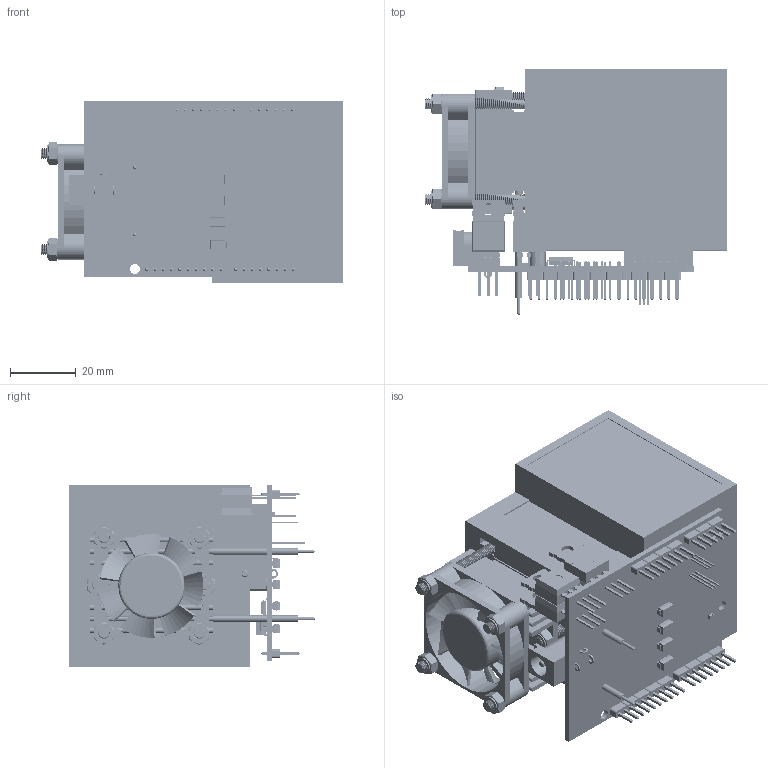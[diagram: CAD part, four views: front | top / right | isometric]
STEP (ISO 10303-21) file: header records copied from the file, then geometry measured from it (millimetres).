
FILE_DESCRIPTION(/* description */ (''),/* implementation_level */ '2;1');
FILE_NAME(/* name */ 'C:/Users/sulir/Desktop/Complet-assemblery v12.step',/* time_stamp */ '2020-06-03T08:01:16+02:00',/* author */ (''),/* organization */ (''),/* preprocessor_version */ 'ST-DEVELOPER v18.1',/* originating_system */ 'Autodesk Translation Framework v9.3.0.1241',/* authorisation */ '');
FILE_SCHEMA (('AUTOMOTIVE_DESIGN { 1 0 10303 214 3 1 1 }'));
Products named in the file (130): Complet-assemblery; Box-NEW; 12V/20W MINI ploché výhrevné teleso; Front-glass; Over-glass; Cooler-V4330K-ForBox; MF35101V1-10000-A99; Zostava-peltier_chladice_ventilaory; Peltier-OK-TRU COMPONENTS TES1-127021; Cooler-V4330K; 90592A104; Stut-small; MF35101V1-10000-A99_1; 1939K17; Stud; 90592A104_1; Left-glass; Closed_part; PCB_ZOSTAVA; DS18B20; CUI_DEVICES_PJ-002A; TMP36GT9Z; PCB; PCB_new; pin; Arduino uno v3; pokus1; arduino+skin; pin_1; Arduino uno v3_1; pokus1_1; arduino+skin_1; pin_2; Arduino uno v3_2; pokus1_2; arduino+skin_2; pin_3; Arduino uno v3_3; pokus1_3; arduino+skin_3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
Assembly tree (207 placements, depth 7):
  Complet-assemblery
    Box-NEW
      12V/20W MINI ploché výhrevné teleso
      Front-glass
      Over-glass
      Cooler-V4330K-ForBox
      MF35101V1-10000-A99
        1939K17
      Zostava-peltier_chladice_ventilaory
        Peltier-OK-TRU COMPONENTS TES1-127021
        Cooler-V4330K  x2
        90592A104  x4
        Stut-small  x2
      MF35101V1-10000-A99_1
        1939K17
      90592A104_1  x8
      Stud  x4
      Left-glass
      Closed_part
    PCB_ZOSTAVA
      DS18B20
      CUI_DEVICES_PJ-002A
      TMP36GT9Z
      PCB
        PCB_new
      HITFET BTS 117  x3
      pin
        Arduino uno v3
          pokus1
            arduino+skin
              Arduino_uno
      pin_1
        Arduino uno v3_1
          pokus1_1
            arduino+skin_1
              Arduino_uno
      pin_2
        Arduino uno v3_2
          pokus1_2
            arduino+skin_2
              Arduino_uno
      pin_3
        Arduino uno v3_3
          pokus1_3
            arduino+skin_3
              Arduino_uno
      pin_4
        Arduino uno v3_4
          pokus1_4
            arduino+skin_4
              Arduino_uno
      pin_5
        Arduino uno v3_5
          pokus1_5
            arduino+skin_5
              Arduino_uno
      pin_6
        Arduino uno v3_6
          pokus1_6
            arduino+skin_6
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Bounding box: 91.82 x 74.5 x 55 mm (x, y, z)
Volume: 90073.5 mm3; surface area: 99195.4 mm2
Topology: 153 solids, 153 shells, 4091 faces, 10539 edges, 6845 vertices
Faces by surface type: plane 2401, cylinder 1407, cone 207, bspline 72, sphere 2, torus 2
Full cylindrical faces by diameter (mm): 0.283 x1, 0.395 x2, 0.45 x4, 1 x2, 1.5 x3, 1.9 x3, 2 x3, 2.721 x36, 2.732 x188, 3 x10, 3.111 x8, 3.2 x10, 3.417 x314, 3.5 x60, 3.7 x3, 5 x19, 5.214 x12, 6.5 x1, 20.125 x2, 32 x1, 33.25 x2
Entity records: 85474 total; most frequent: CARTESIAN_POINT 29298, ORIENTED_EDGE 11058, DIRECTION 10538, EDGE_CURVE 5529, LINE 4196, VECTOR 4196, VERTEX_POINT 3560, AXIS2_PLACEMENT_3D 3171
